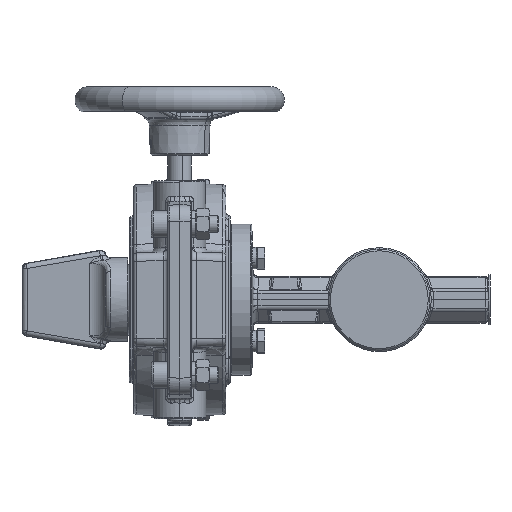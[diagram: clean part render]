
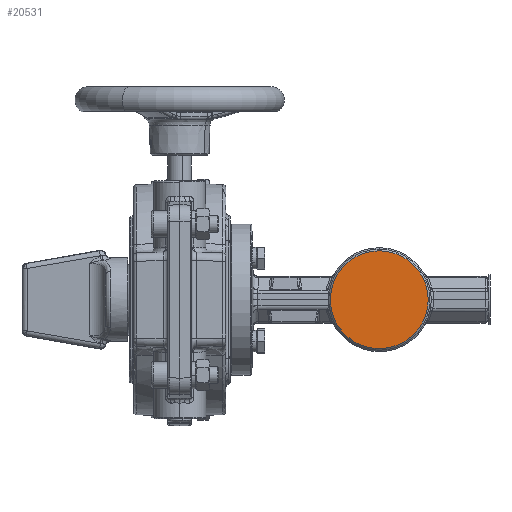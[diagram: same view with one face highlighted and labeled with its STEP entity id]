
A CAD part, left-side view. The second image highlights one B-rep face of the part: STEP entity #20531.
In plain terms, the highlighted planar face has unit normal (-1, 0, 0).
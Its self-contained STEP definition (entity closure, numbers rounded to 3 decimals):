
#8084 = CARTESIAN_POINT ( 'NONE',  ( -40.5, 31., 0. ) ) ;
#8507 = DIRECTION ( 'NONE',  ( 0., 1., 0. ) ) ;
#9334 = PLANE ( 'NONE',  #123579 ) ;
#10556 = CARTESIAN_POINT ( 'NONE',  ( -40.5, 0., 29.163 ) ) ;
#13471 = ORIENTED_EDGE ( 'NONE', *, *, #33046, .T. ) ;
#19817 = EDGE_CURVE ( 'NONE', #51580, #36216, #75302, .T. ) ;
#19847 = CARTESIAN_POINT ( 'NONE',  ( -40.5, 0., 0. ) ) ;
#20531 = ADVANCED_FACE ( 'NONE', ( #63230 ), #9334, .F. ) ;
#29665 = DIRECTION ( 'NONE',  ( 0., 0., -1. ) ) ;
#33046 = EDGE_CURVE ( 'NONE', #36216, #51580, #99677, .T. ) ;
#36216 = VERTEX_POINT ( 'NONE', #10556 ) ;
#37041 = AXIS2_PLACEMENT_3D ( 'NONE', #19847, #87997, #29665 ) ;
#45539 = EDGE_LOOP ( 'NONE', ( #80330, #13471 ) ) ;
#48188 = DIRECTION ( 'NONE',  ( 0., 0., -1. ) ) ;
#48623 = DIRECTION ( 'NONE',  ( -1., 0., 0. ) ) ;
#51580 = VERTEX_POINT ( 'NONE', #115776 ) ;
#54791 = AXIS2_PLACEMENT_3D ( 'NONE', #115843, #48623, #48188 ) ;
#63230 = FACE_OUTER_BOUND ( 'NONE', #45539, .T. ) ;
#75302 = CIRCLE ( 'NONE', #37041, 29.163 ) ;
#80330 = ORIENTED_EDGE ( 'NONE', *, *, #19817, .T. ) ;
#87997 = DIRECTION ( 'NONE',  ( -1., 0., 0. ) ) ;
#99677 = CIRCLE ( 'NONE', #54791, 29.163 ) ;
#115776 = CARTESIAN_POINT ( 'NONE',  ( -40.5, 0., -29.163 ) ) ;
#115843 = CARTESIAN_POINT ( 'NONE',  ( -40.5, 0., 0. ) ) ;
#123579 = AXIS2_PLACEMENT_3D ( 'NONE', #8084, #125157, #8507 ) ;
#125157 = DIRECTION ( 'NONE',  ( 1., 0., 0. ) ) ;
